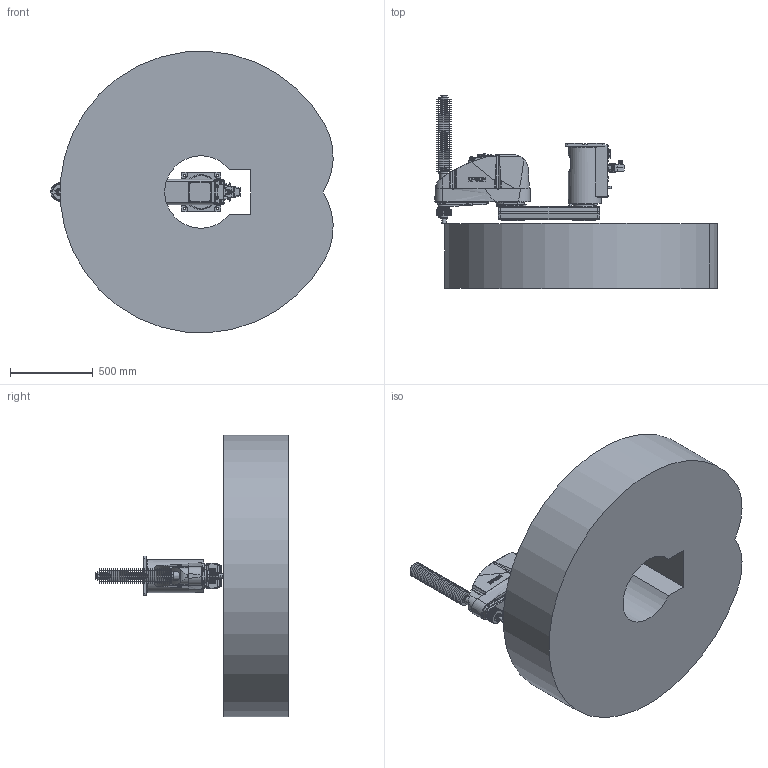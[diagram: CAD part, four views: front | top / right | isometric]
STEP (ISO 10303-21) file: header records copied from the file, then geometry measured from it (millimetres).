
FILE_DESCRIPTION( ( 'STEP AP214' ), '1' );
FILE_NAME( 'C:/Users/9607552/Desktop/GX10-B854CR_langle.stp', '2023-08-01T09:19:30', ( '' ), ( '' ), ' ', 'PARTsolutions', ' ' );
FILE_SCHEMA( ( 'AUTOMOTIVE_DESIGN { 1 0 10303 214 1 1 1 1 }' ) );
Length unit declared in the file: millimetre
Products named in the file (7): GX10-B854CRA-W; _Base cr; _Angle-B; _J1 Arm GX10-450 r/w; _J2 Arm GX10-c; _J3 Arm GX10-c (4); _GX10_20B-35_4
Assembly tree (6 placements, depth 2):
  GX10-B854CRA-W
    _Base cr
    _Angle-B
    _J1 Arm GX10-450 r/w
    _J2 Arm GX10-c
    _J3 Arm GX10-c (4)
    _GX10_20B-35_4
Bounding box: 1702.55 x 1164 x 1697.41 mm (x, y, z)
Volume: 847464934.9 mm3; surface area: 8940971.7 mm2
Topology: 6 solids, 6 shells, 2547 faces, 6232 edges, 4031 vertices
Faces by surface type: plane 1311, cylinder 733, cone 398, torus 67, bspline 37, sphere 1
Full cylindrical faces by diameter (mm): 1.18 x55, 2.5 x2, 3 x32, 3.242 x10, 3.3 x9, 4 x2, 4.2 x2, 4.8 x4, 5.1 x4, 5.34 x4, 5.5 x12, 6 x3, 6.2 x2, 6.647 x2, 7 x27, 7.5 x1, 8 x4, 8.5 x2, 9 x4, 10 x32, 10.5 x3, 11 x14, 12 x7, 12.25 x1, 13 x2, 14 x8, 14.25 x1, 16 x7, 18 x2, 20.4 x1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
Entity records: 95520 total; most frequent: CARTESIAN_POINT 17716, DIRECTION 11937, ORIENTED_EDGE 10856, EDGE_CURVE 5428, AXIS2_PLACEMENT_3D 4544, VERTEX_POINT 3928, EDGE_LOOP 3611, FACE_OUTER_BOUND 2895
